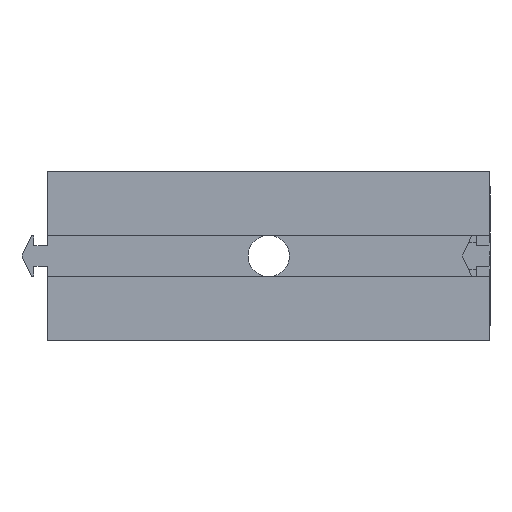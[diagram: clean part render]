
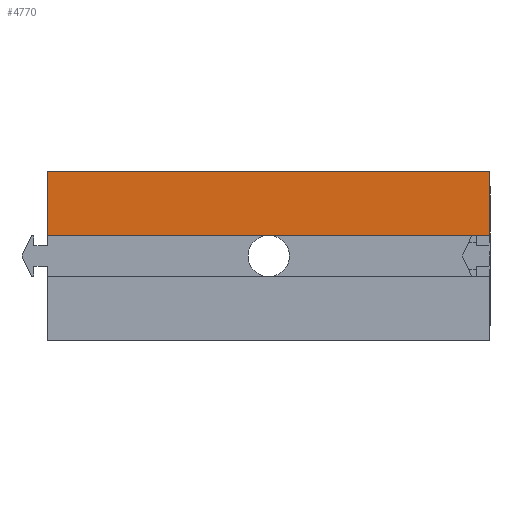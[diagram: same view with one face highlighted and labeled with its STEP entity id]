
A CAD part, front view. The second image highlights one B-rep face of the part: STEP entity #4770.
In plain terms, the highlighted planar face has unit normal (0, -1, 0).
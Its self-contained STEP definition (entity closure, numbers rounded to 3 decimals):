
#1896 = CARTESIAN_POINT ( 'NONE',  ( 32., -40.264, 12.25 ) ) ;
#1903 = CARTESIAN_POINT ( 'NONE',  ( 32., -40.264, 2.95 ) ) ;
#1919 = DIRECTION ( 'NONE',  ( 0., 0., -1. ) ) ;
#1920 = VECTOR ( 'NONE', #1919, 1000. ) ;
#1921 = CARTESIAN_POINT ( 'NONE',  ( 32., -40.264, 2.95 ) ) ;
#1922 = LINE ( 'NONE', #1921, #1920 ) ;
#2257 = CARTESIAN_POINT ( 'NONE',  ( 32., -40.264, 2.95 ) ) ;
#2258 = LINE ( 'NONE', #2257, #2272 ) ;
#2271 = DIRECTION ( 'NONE',  ( -1., 0., 0. ) ) ;
#2272 = VECTOR ( 'NONE', #2271, 1000. ) ;
#3193 = CARTESIAN_POINT ( 'NONE',  ( -32., -40.264, 2.95 ) ) ;
#3206 = VECTOR ( 'NONE', #3259, 1000. ) ;
#3237 = CARTESIAN_POINT ( 'NONE',  ( -32., -40.264, 2.95 ) ) ;
#3239 = CARTESIAN_POINT ( 'NONE',  ( -32., -40.264, 12.25 ) ) ;
#3241 = LINE ( 'NONE', #3237, #3206 ) ;
#3259 = DIRECTION ( 'NONE',  ( 0., 0., -1. ) ) ;
#3337 = CARTESIAN_POINT ( 'NONE',  ( 32., -40.264, 12.25 ) ) ;
#3338 = LINE ( 'NONE', #3337, #3348 ) ;
#3347 = DIRECTION ( 'NONE',  ( -1., 0., 0. ) ) ;
#3348 = VECTOR ( 'NONE', #3347, 1000. ) ;
#3349 = FACE_OUTER_BOUND ( 'NONE', #4717, .T. ) ;
#3370 = AXIS2_PLACEMENT_3D ( 'NONE', #3380, #3374, #3373 ) ;
#3373 = DIRECTION ( 'NONE',  ( 0., 0., 1. ) ) ;
#3374 = DIRECTION ( 'NONE',  ( 0., 1., 0. ) ) ;
#3380 = CARTESIAN_POINT ( 'NONE',  ( 32., -40.264, 2.95 ) ) ;
#3406 = PLANE ( 'NONE',  #3370 ) ;
#3631 = VERTEX_POINT ( 'NONE', #1896 ) ;
#3649 = VERTEX_POINT ( 'NONE', #1903 ) ;
#3650 = EDGE_CURVE ( 'NONE', #3631, #3649, #1922, .T. ) ;
#3881 = ORIENTED_EDGE ( 'NONE', *, *, #3882, .F. ) ;
#3882 = EDGE_CURVE ( 'NONE', #3649, #4624, #2258, .T. ) ;
#3934 = ORIENTED_EDGE ( 'NONE', *, *, #3650, .F. ) ;
#3935 = ORIENTED_EDGE ( 'NONE', *, *, #4708, .T. ) ;
#4622 = VERTEX_POINT ( 'NONE', #3239 ) ;
#4624 = VERTEX_POINT ( 'NONE', #3193 ) ;
#4639 = EDGE_CURVE ( 'NONE', #4622, #4624, #3241, .T. ) ;
#4708 = EDGE_CURVE ( 'NONE', #3631, #4622, #3338, .T. ) ;
#4717 = EDGE_LOOP ( 'NONE', ( #4718, #3881, #3934, #3935 ) ) ;
#4718 = ORIENTED_EDGE ( 'NONE', *, *, #4639, .T. ) ;
#4770 = ADVANCED_FACE ( 'NONE', ( #3349 ), #3406, .F. ) ;
